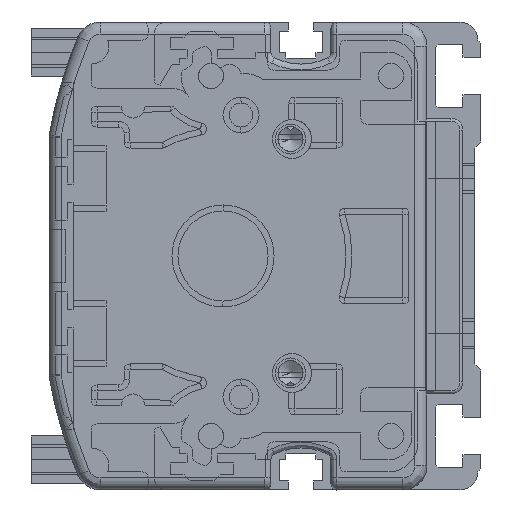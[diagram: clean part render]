
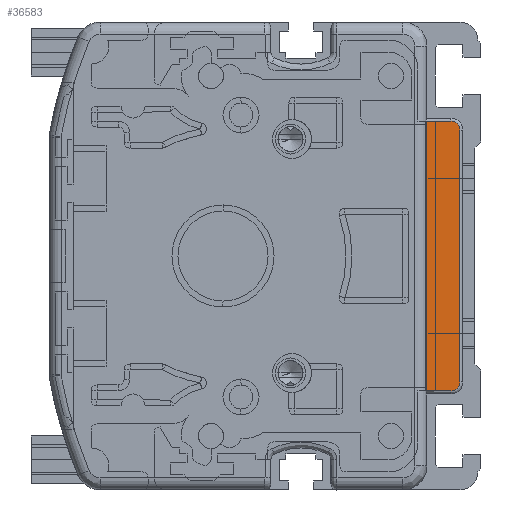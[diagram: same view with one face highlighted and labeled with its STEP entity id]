
A CAD part, left-side view. The second image highlights one B-rep face of the part: STEP entity #36583.
In plain terms, the highlighted planar face has unit normal (-1, 0, 0).
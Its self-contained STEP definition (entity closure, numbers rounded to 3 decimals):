
#31138=DIRECTION('',(0.,0.,-1.));
#31139=VECTOR('',#31138,45.);
#31140=CARTESIAN_POINT('',(-2.,10.268,22.5));
#31141=LINE('',#31140,#31139);
#31173=CARTESIAN_POINT('',(-2.,6.,21.));
#31174=DIRECTION('',(1.,0.,0.));
#31175=DIRECTION('',(0.,0.,1.));
#31176=AXIS2_PLACEMENT_3D('',#31173,#31174,#31175);
#31178=CARTESIAN_POINT('',(-2.,6.,-21.));
#31179=DIRECTION('',(1.,0.,0.));
#31180=DIRECTION('',(0.,-1.,0.));
#31181=AXIS2_PLACEMENT_3D('',#31178,#31179,#31180);
#31187=DIRECTION('',(0.,-1.,0.));
#31188=VECTOR('',#31187,4.268);
#31189=CARTESIAN_POINT('',(-2.,10.268,-22.5));
#31190=LINE('',#31189,#31188);
#31721=DIRECTION('',(0.,0.,1.));
#31722=VECTOR('',#31721,42.);
#31723=CARTESIAN_POINT('',(-2.,4.5,-21.));
#31724=LINE('',#31723,#31722);
#31744=DIRECTION('',(0.,1.,0.));
#31745=VECTOR('',#31744,4.268);
#31746=CARTESIAN_POINT('',(-2.,6.,22.5));
#31747=LINE('',#31746,#31745);
#35030=CARTESIAN_POINT('',(-2.,10.268,22.5));
#35031=CARTESIAN_POINT('',(-2.,10.268,-22.5));
#35032=VERTEX_POINT('',#35030);
#35033=VERTEX_POINT('',#35031);
#35043=CARTESIAN_POINT('',(-2.,6.,-22.5));
#35044=VERTEX_POINT('',#35043);
#35045=CARTESIAN_POINT('',(-2.,4.5,-21.));
#35046=VERTEX_POINT('',#35045);
#35047=CARTESIAN_POINT('',(-2.,4.5,21.));
#35048=VERTEX_POINT('',#35047);
#35049=CARTESIAN_POINT('',(-2.,6.,
22.5));
#35050=VERTEX_POINT('',#35049);
#36565=CARTESIAN_POINT('',(-2.,7.384,0.));
#36566=DIRECTION('',(1.,0.,0.));
#36567=DIRECTION('',(0.,0.,-1.));
#36568=AXIS2_PLACEMENT_3D('',#36565,#36566,#36567);
#36569=PLANE('',#36568);
#36571=ORIENTED_EDGE('',*,*,#36570,.F.);
#36572=ORIENTED_EDGE('',*,*,#36544,.F.);
#36574=ORIENTED_EDGE('',*,*,#36573,.F.);
#36576=ORIENTED_EDGE('',*,*,#36575,.T.);
#36578=ORIENTED_EDGE('',*,*,#36577,.F.);
#36580=ORIENTED_EDGE('',*,*,#36579,.T.);
#36581=EDGE_LOOP('',(#36571,#36572,#36574,#36576,#36578,#36580));
#36582=FACE_OUTER_BOUND('',#36581,.F.);
#36583=ADVANCED_FACE('',(#36582),#36569,.F.);
#31177=CIRCLE('',#31176,1.5);
#31182=CIRCLE('',#31181,1.5);
#36544=EDGE_CURVE('',#35032,#35033,#31141,.T.);
#36570=EDGE_CURVE('',#35033,#35044,#31190,.T.);
#36573=EDGE_CURVE('',#35050,#35032,#31747,.T.);
#36575=EDGE_CURVE('',#35050,#35048,#31177,.T.);
#36577=EDGE_CURVE('',#35046,#35048,#31724,.T.);
#36579=EDGE_CURVE('',#35046,#35044,#31182,.T.);
